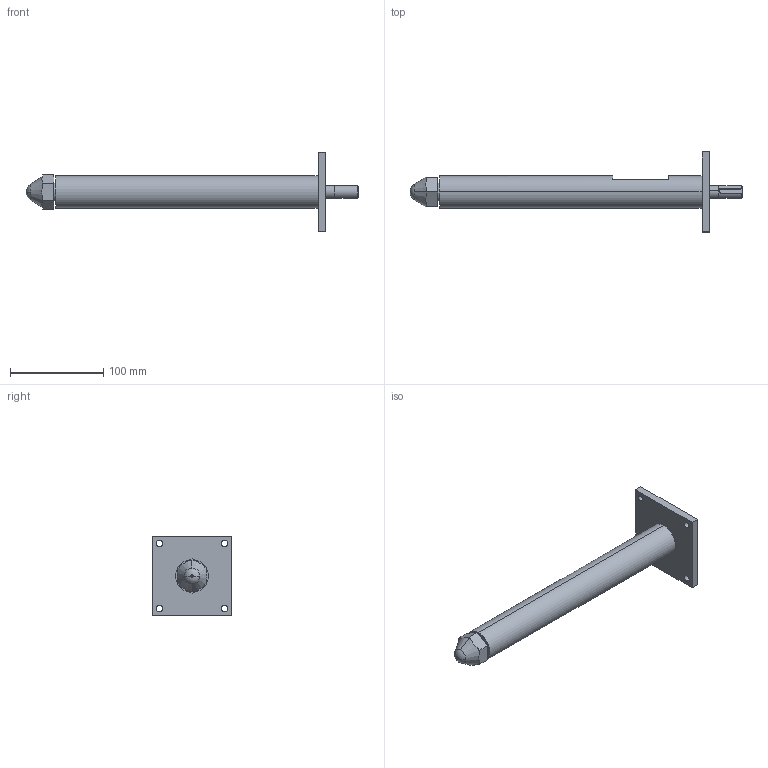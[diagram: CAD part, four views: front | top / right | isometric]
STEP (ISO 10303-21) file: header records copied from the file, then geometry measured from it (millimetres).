
FILE_DESCRIPTION (( 'STEP AP203' ), '1' );
FILE_NAME ('M24装配图.STEP', '2021-03-31T15:09:39', ( '微软用户' ), ( '微软中国' ), 'SwSTEP 2.0', 'SolidWorks 2013', '' );
FILE_SCHEMA (( 'CONFIG_CONTROL_DESIGN' ));
Length unit declared in the file: millimetre
Products named in the file (4): 杶芠2 - 萵掛; 蹟裝; M24X2蹟邡芛(1); M24蚾饜芞
Assembly tree (3 placements, depth 2):
  M24蚾饜芞
    M24X2蹟邡芛(1)
    杶芠2 - 萵掛
    蹟裝
Bounding box: 356.92 x 86 x 86 mm (x, y, z)
Volume: 319686.8 mm3; surface area: 88809.4 mm2
Topology: 3 solids, 3 shells, 170 faces, 459 edges, 300 vertices
Faces by surface type: cylinder 94, plane 34, cone 28, bspline 9, sphere 5
Entity records: 14812 total; most frequent: CARTESIAN_POINT 10512, ORIENTED_EDGE 918, DIRECTION 710, EDGE_CURVE 459, VERTEX_POINT 300, AXIS2_PLACEMENT_3D 271, EDGE_LOOP 197, ADVANCED_FACE 170
